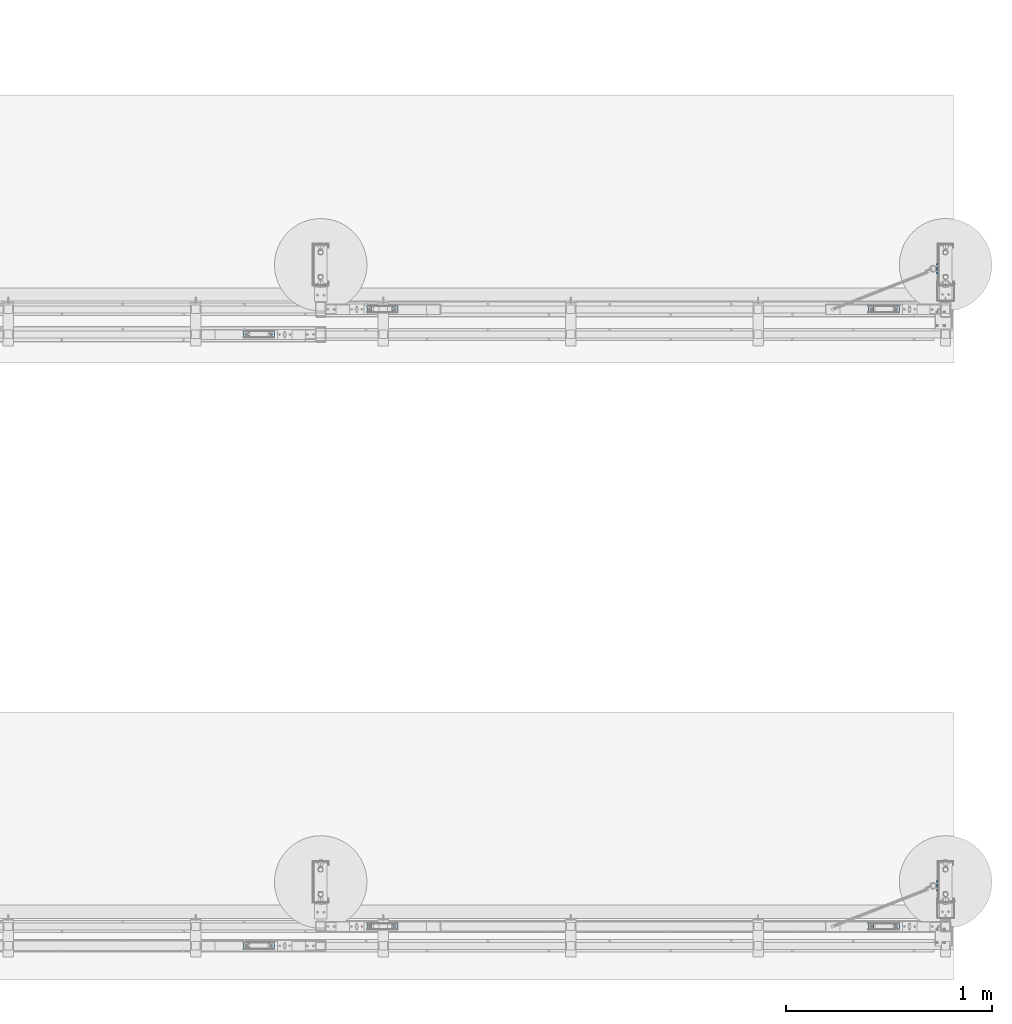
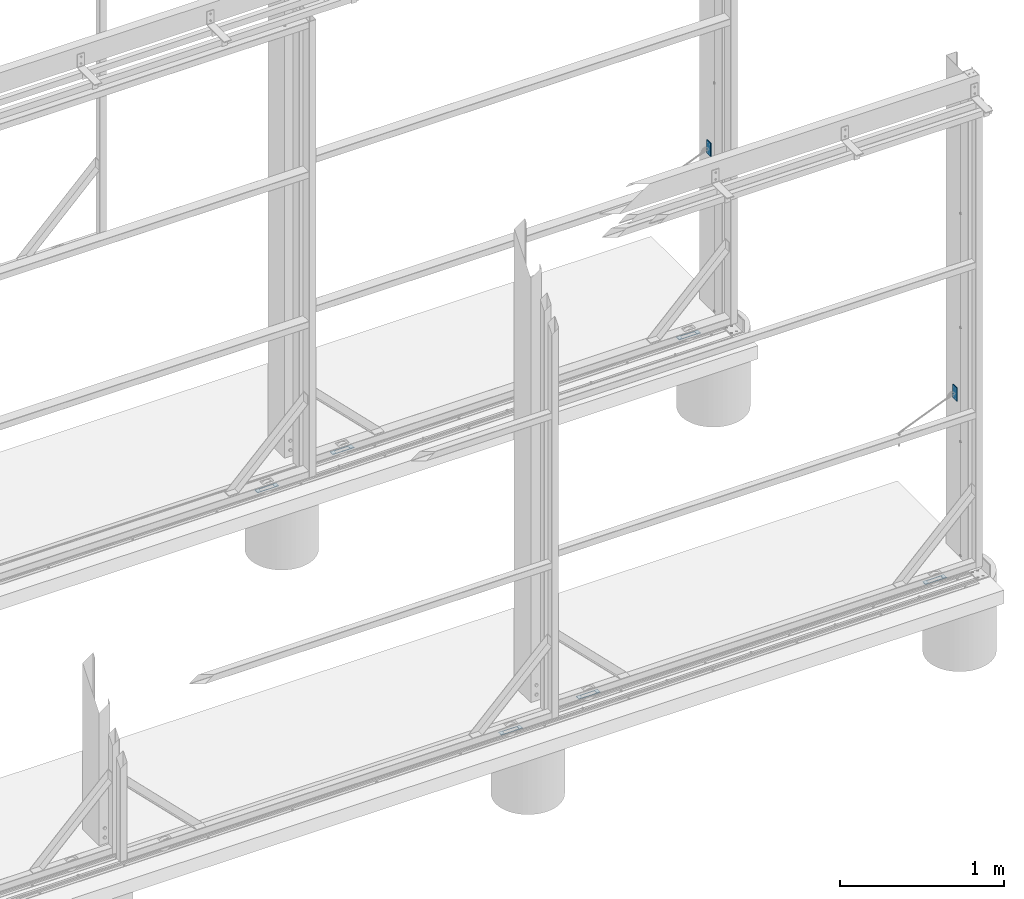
# One storey, part 11 of 91: 8 plates, 8 elements without a shape of their own.
"""IFC2X3 building model written with IfcOpenShell, lengths in millimetres."""

from ifc_helpers import new_model, si_unit, frame, origin_with_axes, place, context, subcontext, project, spatial, polyline, outline, extrude, boolean, material, type_object, element, aggregate, save


model = new_model("IFC2X3")

# Units and contexts
model_context = context("Model", 3, precision=1e-05, world=origin_with_axes())
body_context = subcontext(model_context, "Body", "Model", "MODEL_VIEW")
ifc_project = project(units=[si_unit("LENGTHUNIT", "METRE", prefix="MILLI"), si_unit("AREAUNIT", "SQUARE_METRE"), si_unit("VOLUMEUNIT", "CUBIC_METRE"), si_unit("MASSUNIT", "GRAM", prefix="KILO"), si_unit("TIMEUNIT", "SECOND"), si_unit("PLANEANGLEUNIT", "RADIAN"), si_unit("SOLIDANGLEUNIT", "STERADIAN"), si_unit("THERMODYNAMICTEMPERATUREUNIT", "DEGREE_CELSIUS"), si_unit("LUMINOUSINTENSITYUNIT", "LUMEN")], contexts=[model_context])

# Site, building, storey
site_placement = place(None, origin_with_axes())
site = spatial("IfcSite", under=ifc_project, at=site_placement, Name="Undefined", CompositionType="ELEMENT")
building_placement = place(site_placement, origin_with_axes())
building = spatial("IfcBuilding", under=site, at=building_placement, Name="Undefined", CompositionType="ELEMENT")
storey_placement = place(building_placement, origin_with_axes())
storey = spatial("IfcBuildingStorey", under=building, at=storey_placement, Name="Undefined", CompositionType="ELEMENT", Elevation=0.0)

# Assembly, plate
assembly_1_placement = place(storey_placement, origin_with_axes())
assembly_1 = element("IfcElementAssembly", 1, at=assembly_1_placement, inside=storey, Name="PLATE", AssemblyPlace="NOTDEFINED", PredefinedType="RIGID_FRAME")
ifc_material = material(Name="STEEL/250")
plate_type_1 = type_object("IfcPlateType", Name="FL6*50", PredefinedType="NOTDEFINED")
plate_1_placement = place(assembly_1_placement, frame((-107724.337393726, 87934.8982218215, 1112.34), z_axis=(1.0, 0.0, 0.0), x_axis=(0.0, 0.0, 1.0)))
plate_1 = element("IfcPlate", 2, at=plate_1_placement, type_object=plate_type_1, material=ifc_material, Name="PLATE", ObjectType="FL6*50", context=body_context, shape_type="SweptSolid", body=[
    extrude(outline(polyline([(0.0, 0.0), (100.0, 0.0), (100.0, 50.0), (0.0, 50.0), (0.0, 0.0)])), frame((0.0, 0.0, -3.0), z_axis=(0.0, 0.0, 1.0), x_axis=(1.0, 0.0, 0.0)), (0.0, 0.0, 1.0), 6.0),
])
aggregate(assembly_1, [plate_1])

assembly_2_placement = place(storey_placement, origin_with_axes())
assembly_2 = element("IfcElementAssembly", 3, at=assembly_2_placement, inside=storey, Name="PLATE", AssemblyPlace="NOTDEFINED", PredefinedType="RIGID_FRAME")
plate_2_placement = place(assembly_2_placement, frame((-107724.337393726, 84934.8982218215, 1112.34), z_axis=(1.0, 0.0, 0.0), x_axis=(0.0, 0.0, 1.0)))
plate_2 = element("IfcPlate", 4, at=plate_2_placement, type_object=plate_type_1, material=ifc_material, Name="PLATE", ObjectType="FL6*50", context=body_context, shape_type="SweptSolid", body=[
    extrude(outline(polyline([(0.0, 0.0), (100.0, 0.0), (100.0, 50.0), (0.0, 50.0), (0.0, 0.0)])), frame((0.0, 0.0, -3.0), z_axis=(0.0, 0.0, 1.0), x_axis=(1.0, 0.0, 0.0)), (0.0, 0.0, 1.0), 6.0),
])
aggregate(assembly_2, [plate_2])

assembly_3_placement = place(storey_placement, origin_with_axes())
assembly_3 = element("IfcElementAssembly", 5, at=assembly_3_placement, inside=storey, Name="PLATE", AssemblyPlace="NOTDEFINED", PredefinedType="RIGID_FRAME")
plate_type_2 = type_object("IfcPlateType", Name="PLT2*33", PredefinedType="NOTDEFINED")
plate_3_placement = place(assembly_3_placement, frame((-108058.34, 87695.65, -18.0), z_axis=(0.0, 0.0, -1.0), x_axis=(0.0, 1.0, 0.0)))
plate_3 = element("IfcPlate", 6, at=plate_3_placement, type_object=plate_type_2, material=ifc_material, Name="PLATE", ObjectType="PLT2*33", context=body_context, shape_type="CSG", body=[
    boolean("DIFFERENCE", extrude(outline(polyline([(0.0, 0.0), (33.0, 0.0), (33.0, 150.0), (0.0, 150.0), (0.0, 0.0)])), frame((0.0, 0.0, -1.0), z_axis=(0.0, 0.0, 1.0), x_axis=(1.0, 0.0, 0.0)), (0.0, 0.0, 1.0), 2.0), extrude(outline(polyline([(0.0, 0.0), (27.0, 0.0), (27.0, 100.0), (0.0, 100.0), (0.0, 0.0)])), frame((30.0037103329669, 25.0032500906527, 3.5), z_axis=(0.0, 0.0, -1.0), x_axis=(-1.0, 0.0, 0.0)), (0.0, 0.0, 1.0), 7.0)),
])
aggregate(assembly_3, [plate_3])

assembly_4_placement = place(storey_placement, origin_with_axes())
assembly_4 = element("IfcElementAssembly", 7, at=assembly_4_placement, inside=storey, Name="PLATE", AssemblyPlace="NOTDEFINED", PredefinedType="RIGID_FRAME")
plate_4_placement = place(assembly_4_placement, frame((-110495.84, 87695.65, -18.0), z_axis=(0.0, 0.0, -1.0), x_axis=(0.0, 1.0, 0.0)))
plate_4 = element("IfcPlate", 8, at=plate_4_placement, type_object=plate_type_2, material=ifc_material, Name="PLATE", ObjectType="PLT2*33", context=body_context, shape_type="CSG", body=[
    boolean("DIFFERENCE", extrude(outline(polyline([(0.0, 0.0), (33.0, 0.0), (33.0, 150.0), (0.0, 150.0), (0.0, 0.0)])), frame((0.0, 0.0, -1.0), z_axis=(0.0, 0.0, 1.0), x_axis=(1.0, 0.0, 0.0)), (0.0, 0.0, 1.0), 2.0), extrude(outline(polyline([(0.0, 0.0), (27.0, 0.0), (27.0, 100.0), (0.0, 100.0), (0.0, 0.0)])), frame((30.0037103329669, 25.0032500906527, 3.5), z_axis=(0.0, 0.0, -1.0), x_axis=(-1.0, 0.0, 0.0)), (0.0, 0.0, 1.0), 7.0)),
])
aggregate(assembly_4, [plate_4])

assembly_5_placement = place(storey_placement, origin_with_axes())
assembly_5 = element("IfcElementAssembly", 9, at=assembly_5_placement, inside=storey, Name="PLATE", AssemblyPlace="NOTDEFINED", PredefinedType="RIGID_FRAME")
plate_5_placement = place(assembly_5_placement, frame((-111095.84, 87573.65, -18.0), z_axis=(0.0, 0.0, -1.0), x_axis=(0.0, 1.0, 0.0)))
plate_5 = element("IfcPlate", 10, at=plate_5_placement, type_object=plate_type_2, material=ifc_material, Name="PLATE", ObjectType="PLT2*33", context=body_context, shape_type="CSG", body=[
    boolean("DIFFERENCE", extrude(outline(polyline([(0.0, 0.0), (33.0, 0.0), (33.0, 150.0), (0.0, 150.0), (0.0, 0.0)])), frame((0.0, 0.0, -1.0), z_axis=(0.0, 0.0, 1.0), x_axis=(1.0, 0.0, 0.0)), (0.0, 0.0, 1.0), 2.0), extrude(outline(polyline([(0.0, 0.0), (27.0, 0.0), (27.0, 100.0), (0.0, 100.0), (0.0, 0.0)])), frame((30.0037103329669, 25.0032500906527, 3.5), z_axis=(0.0, 0.0, -1.0), x_axis=(-1.0, 0.0, 0.0)), (0.0, 0.0, 1.0), 7.0)),
])
aggregate(assembly_5, [plate_5])

assembly_6_placement = place(storey_placement, origin_with_axes())
assembly_6 = element("IfcElementAssembly", 11, at=assembly_6_placement, inside=storey, Name="PLATE", AssemblyPlace="NOTDEFINED", PredefinedType="RIGID_FRAME")
plate_6_placement = place(assembly_6_placement, frame((-108058.34, 84695.65, -18.0), z_axis=(0.0, 0.0, -1.0), x_axis=(0.0, 1.0, 0.0)))
plate_6 = element("IfcPlate", 12, at=plate_6_placement, type_object=plate_type_2, material=ifc_material, Name="PLATE", ObjectType="PLT2*33", context=body_context, shape_type="CSG", body=[
    boolean("DIFFERENCE", extrude(outline(polyline([(0.0, 0.0), (33.0, 0.0), (33.0, 150.0), (0.0, 150.0), (0.0, 0.0)])), frame((0.0, 0.0, -1.0), z_axis=(0.0, 0.0, 1.0), x_axis=(1.0, 0.0, 0.0)), (0.0, 0.0, 1.0), 2.0), extrude(outline(polyline([(0.0, 0.0), (27.0, 0.0), (27.0, 100.0), (0.0, 100.0), (0.0, 0.0)])), frame((30.0037103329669, 25.0032500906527, 3.5), z_axis=(0.0, 0.0, -1.0), x_axis=(-1.0, 0.0, 0.0)), (0.0, 0.0, 1.0), 7.0)),
])
aggregate(assembly_6, [plate_6])

assembly_7_placement = place(storey_placement, origin_with_axes())
assembly_7 = element("IfcElementAssembly", 13, at=assembly_7_placement, inside=storey, Name="PLATE", AssemblyPlace="NOTDEFINED", PredefinedType="RIGID_FRAME")
plate_7_placement = place(assembly_7_placement, frame((-110495.84, 84695.65, -18.0), z_axis=(0.0, 0.0, -1.0), x_axis=(0.0, 1.0, 0.0)))
plate_7 = element("IfcPlate", 14, at=plate_7_placement, type_object=plate_type_2, material=ifc_material, Name="PLATE", ObjectType="PLT2*33", context=body_context, shape_type="CSG", body=[
    boolean("DIFFERENCE", extrude(outline(polyline([(0.0, 0.0), (33.0, 0.0), (33.0, 150.0), (0.0, 150.0), (0.0, 0.0)])), frame((0.0, 0.0, -1.0), z_axis=(0.0, 0.0, 1.0), x_axis=(1.0, 0.0, 0.0)), (0.0, 0.0, 1.0), 2.0), extrude(outline(polyline([(0.0, 0.0), (27.0, 0.0), (27.0, 100.0), (0.0, 100.0), (0.0, 0.0)])), frame((30.0037103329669, 25.0032500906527, 3.5), z_axis=(0.0, 0.0, -1.0), x_axis=(-1.0, 0.0, 0.0)), (0.0, 0.0, 1.0), 7.0)),
])
aggregate(assembly_7, [plate_7])

assembly_8_placement = place(storey_placement, origin_with_axes())
assembly_8 = element("IfcElementAssembly", 15, at=assembly_8_placement, inside=storey, Name="PLATE", AssemblyPlace="NOTDEFINED", PredefinedType="RIGID_FRAME")
plate_8_placement = place(assembly_8_placement, frame((-111095.84, 84601.65, -18.0), z_axis=(0.0, 0.0, -1.0), x_axis=(0.0, 1.0, 0.0)))
plate_8 = element("IfcPlate", 16, at=plate_8_placement, type_object=plate_type_2, material=ifc_material, Name="PLATE", ObjectType="PLT2*33", context=body_context, shape_type="CSG", body=[
    boolean("DIFFERENCE", extrude(outline(polyline([(0.0, 0.0), (33.0, 0.0), (33.0, 150.0), (0.0, 150.0), (0.0, 0.0)])), frame((0.0, 0.0, -1.0), z_axis=(0.0, 0.0, 1.0), x_axis=(1.0, 0.0, 0.0)), (0.0, 0.0, 1.0), 2.0), extrude(outline(polyline([(0.0, 0.0), (27.0, 0.0), (27.0, 100.0), (0.0, 100.0), (0.0, 0.0)])), frame((30.0037103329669, 25.0032500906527, 3.5), z_axis=(0.0, 0.0, -1.0), x_axis=(-1.0, 0.0, 0.0)), (0.0, 0.0, 1.0), 7.0)),
])
aggregate(assembly_8, [plate_8])

save(model, "model.ifc")
